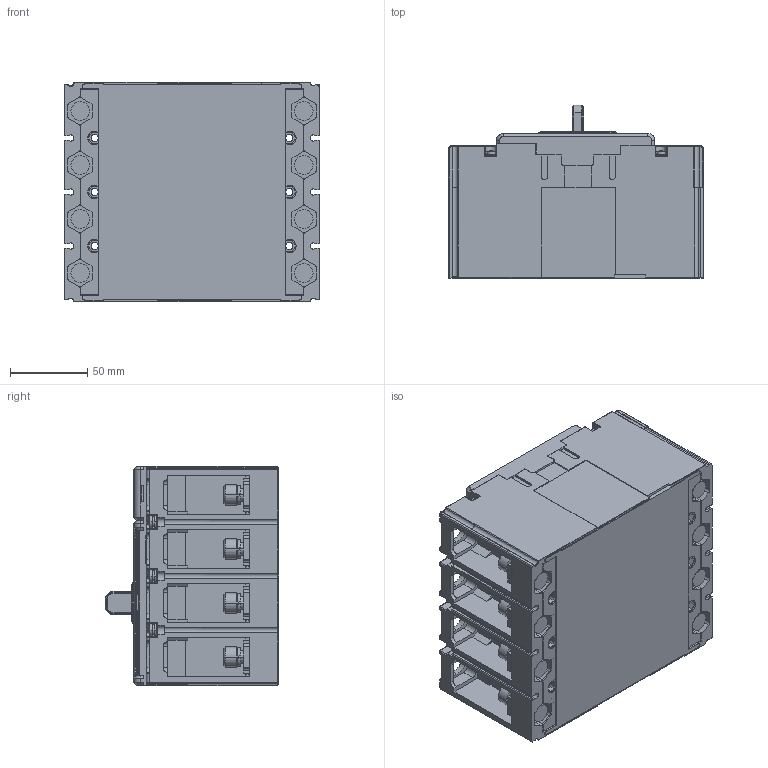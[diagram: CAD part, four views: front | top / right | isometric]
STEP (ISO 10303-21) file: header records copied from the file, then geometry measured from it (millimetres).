
FILE_DESCRIPTION((''),'2;1');
FILE_NAME('CDM6EI-250_4P_ASM','2023-05-29T',('ling.zeng'),(''),'PRO/ENGINEER BY PARAMETRIC TECHNOLOGY CORPORATION, 2015440','PRO/ENGINEER BY PARAMETRIC TECHNOLOGY CORPORATION, 2015440','');
FILE_SCHEMA(('CONFIG_CONTROL_DESIGN'));
Products named in the file (13): PRT0282; PRT0283; PRT0284; PRT0285; PRT0286_AF0; PRT0287_AF0; PRT0288_AF0; PRT0289_AF0; PRT0290; PRT0291; PRT0292_AF0; CDM6EI-250_4P_ASM_1_AF0_ASM; CDM6EI-250_4P_ASM
Assembly tree (12 placements, depth 3):
  CDM6EI-250_4P_ASM
    CDM6EI-250_4P_ASM_1_AF0_ASM
      PRT0282
      PRT0283
      PRT0284
      PRT0285
      PRT0286_AF0
      PRT0287_AF0
      PRT0288_AF0
      PRT0289_AF0
      PRT0290
      PRT0291
      PRT0292_AF0
Bounding box: 165 x 112.41 x 142 mm (x, y, z)
Volume: 1728264.3 mm3; surface area: 238234.8 mm2
Topology: 15 solids, 29 shells, 4390 faces, 12027 edges, 7650 vertices
Faces by surface type: plane 2445, cylinder 1227, cone 242, extrusion 158, sphere 145, torus 127, bspline 46
Entity records: 143406 total; most frequent: CARTESIAN_POINT 30953, ORIENTED_EDGE 23764, DIRECTION 23411, EDGE_CURVE 11882, AXIS2_PLACEMENT_3D 7930, VERTEX_POINT 7650, VECTOR 7551, LINE 7393
